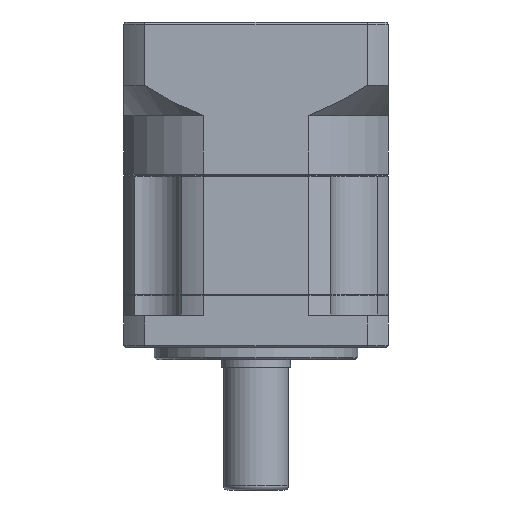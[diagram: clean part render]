
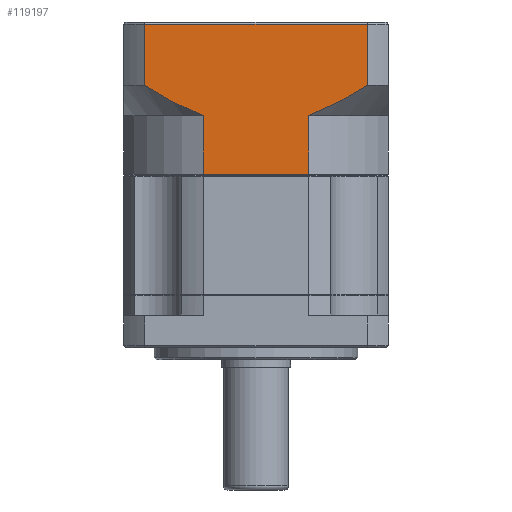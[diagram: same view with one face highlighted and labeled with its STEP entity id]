
A CAD part, front view. The second image highlights one B-rep face of the part: STEP entity #119197.
In plain terms, the highlighted planar face has unit normal (0, -1, 0).
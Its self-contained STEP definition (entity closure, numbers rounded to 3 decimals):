
#128 = CARTESIAN_POINT ( 'NONE',  ( -48.82, -34.19, 153.15 ) ) ;
#1723 = LINE ( 'NONE', #68575, #114935 ) ;
#2540 = CARTESIAN_POINT ( 'NONE',  ( -36.966, -34.19, 131.666 ) ) ;
#4884 = LINE ( 'NONE', #87857, #45288 ) ;
#6492 = DIRECTION ( 'NONE',  ( 0., 0., -1. ) ) ;
#8503 = CARTESIAN_POINT ( 'NONE',  ( -8.443, -34.19, 130.65 ) ) ;
#9054 = CARTESIAN_POINT ( 'NONE',  ( -5.904, -34.19, 131.592 ) ) ;
#9624 = PLANE ( 'NONE',  #109253 ) ;
#10830 = DIRECTION ( 'NONE',  ( -1., 0., 0. ) ) ;
#12624 = CARTESIAN_POINT ( 'NONE',  ( -44.236, -34.19, 135.3 ) ) ;
#16153 = VECTOR ( 'NONE', #77544, 1000. ) ;
#20485 = DIRECTION ( 'NONE',  ( 0., 1., 0. ) ) ;
#21413 = CARTESIAN_POINT ( 'NONE',  ( -46.551, -34.19, 136.688 ) ) ;
#22146 = CARTESIAN_POINT ( 'NONE',  ( -34.424, -34.19, 130.65 ) ) ;
#26308 = EDGE_CURVE ( 'NONE', #105064, #58314, #98002, .T. ) ;
#29450 = CARTESIAN_POINT ( 'NONE',  ( 4.814, -34.19, 137.416 ) ) ;
#30301 = ORIENTED_EDGE ( 'NONE', *, *, #96862, .F. ) ;
#31378 = CARTESIAN_POINT ( 'NONE',  ( -34.424, -34.19, 130.65 ) ) ;
#36713 = VECTOR ( 'NONE', #66775, 1000. ) ;
#37102 = LINE ( 'NONE', #115719, #16153 ) ;
#38418 = VERTEX_POINT ( 'NONE', #8503 ) ;
#40151 = CARTESIAN_POINT ( 'NONE',  ( -34.424, -34.19, 116.239 ) ) ;
#41006 = CARTESIAN_POINT ( 'NONE',  ( -37.59, -34.19, 131.94 ) ) ;
#41508 = VERTEX_POINT ( 'NONE', #122533 ) ;
#41700 = VERTEX_POINT ( 'NONE', #22146 ) ;
#41742 = LINE ( 'NONE', #71984, #73036 ) ;
#45288 = VECTOR ( 'NONE', #116429, 1000. ) ;
#46684 = ORIENTED_EDGE ( 'NONE', *, *, #94661, .T. ) ;
#47220 = CARTESIAN_POINT ( 'NONE',  ( -8.443, -34.19, 116.239 ) ) ;
#47349 = VECTOR ( 'NONE', #104988, 1000. ) ;
#47451 = CARTESIAN_POINT ( 'NONE',  ( -8.443, -34.19, 130.65 ) ) ;
#48309 = CARTESIAN_POINT ( 'NONE',  ( -3.453, -34.19, 132.737 ) ) ;
#49798 = CARTESIAN_POINT ( 'NONE',  ( -35.067, -34.19, 130.889 ) ) ;
#50598 = CARTESIAN_POINT ( 'NONE',  ( -35.705, -34.19, 131.141 ) ) ;
#53595 = ORIENTED_EDGE ( 'NONE', *, *, #102379, .F. ) ;
#54335 = ORIENTED_EDGE ( 'NONE', *, *, #74656, .F. ) ;
#55786 = ORIENTED_EDGE ( 'NONE', *, *, #94181, .T. ) ;
#56563 = FACE_OUTER_BOUND ( 'NONE', #102834, .T. ) ;
#56800 = CARTESIAN_POINT ( 'NONE',  ( 5.953, -34.19, 153.15 ) ) ;
#58314 = VERTEX_POINT ( 'NONE', #128 ) ;
#65228 = VERTEX_POINT ( 'NONE', #47220 ) ;
#65251 = VERTEX_POINT ( 'NONE', #56800 ) ;
#66775 = DIRECTION ( 'NONE',  ( 0., 0., -1. ) ) ;
#68575 = CARTESIAN_POINT ( 'NONE',  ( 11.066, -34.19, 116.239 ) ) ;
#69760 = CARTESIAN_POINT ( 'NONE',  ( -40.655, -34.19, 133.395 ) ) ;
#71984 = CARTESIAN_POINT ( 'NONE',  ( 5.953, -34.19, 135.65 ) ) ;
#73036 = VECTOR ( 'NONE', #6492, 1000. ) ;
#74656 = EDGE_CURVE ( 'NONE', #91755, #41700, #37102, .T. ) ;
#75769 = CARTESIAN_POINT ( 'NONE',  ( 0.141, -34.19, 134.646 ) ) ;
#76339 = CARTESIAN_POINT ( 'NONE',  ( 11.066, -34.19, 153.65 ) ) ;
#76828 = ORIENTED_EDGE ( 'NONE', *, *, #79038, .F. ) ;
#77544 = DIRECTION ( 'NONE',  ( 0., 0., 1. ) ) ;
#79038 = EDGE_CURVE ( 'NONE', #41700, #105064, #88408, .T. ) ;
#79343 = CARTESIAN_POINT ( 'NONE',  ( -48.82, -34.19, 138.15 ) ) ;
#79364 = DIRECTION ( 'NONE',  ( 1., 0., 0. ) ) ;
#87857 = CARTESIAN_POINT ( 'NONE',  ( -48.82, -34.19, 153.15 ) ) ;
#88408 = B_SPLINE_CURVE_WITH_KNOTS ( 'NONE', 3,
 ( #31378, #49798, #50598, #2540, #41006, #117085, #69760, #12624, #21413, #79343 ),
 .UNSPECIFIED., .F., .F.,
 ( 4, 2, 2, 2, 4 ),
 ( 0.101, 0.104, 0.106, 0.11, 0.118 ),
 .UNSPECIFIED. ) ;
#91755 = VERTEX_POINT ( 'NONE', #40151 ) ;
#94181 = EDGE_CURVE ( 'NONE', #65251, #58314, #4884, .T. ) ;
#94502 = B_SPLINE_CURVE_WITH_KNOTS ( 'NONE', 3,
 ( #114777, #29450, #123590, #123168, #75769, #48309, #9054, #47451 ),
 .UNSPECIFIED., .F., .F.,
 ( 4, 2, 2, 4 ),
 ( 0.059, 0.063, 0.067, 0.075 ),
 .UNSPECIFIED. ) ;
#94661 = EDGE_CURVE ( 'NONE', #91755, #65228, #1723, .T. ) ;
#95478 = CARTESIAN_POINT ( 'NONE',  ( -48.82, -34.19, 135.65 ) ) ;
#96862 = EDGE_CURVE ( 'NONE', #38418, #65228, #112605, .T. ) ;
#98002 = LINE ( 'NONE', #95478, #47349 ) ;
#102379 = EDGE_CURVE ( 'NONE', #65251, #41508, #41742, .T. ) ;
#102834 = EDGE_LOOP ( 'NONE', ( #53595, #55786, #103090, #76828, #54335, #46684, #30301, #117320 ) ) ;
#103090 = ORIENTED_EDGE ( 'NONE', *, *, #26308, .F. ) ;
#104988 = DIRECTION ( 'NONE',  ( 0., 0., 1. ) ) ;
#105064 = VERTEX_POINT ( 'NONE', #113724 ) ;
#105365 = CARTESIAN_POINT ( 'NONE',  ( -8.443, -34.19, 130.65 ) ) ;
#109253 = AXIS2_PLACEMENT_3D ( 'NONE', #76339, #20485, #10830 ) ;
#112605 = LINE ( 'NONE', #105365, #36713 ) ;
#113724 = CARTESIAN_POINT ( 'NONE',  ( -48.82, -34.19, 138.15 ) ) ;
#114490 = EDGE_CURVE ( 'NONE', #41508, #38418, #94502, .T. ) ;
#114777 = CARTESIAN_POINT ( 'NONE',  ( 5.953, -34.19, 138.15 ) ) ;
#114935 = VECTOR ( 'NONE', #79364, 1000. ) ;
#115719 = CARTESIAN_POINT ( 'NONE',  ( -34.424, -34.19, 130.65 ) ) ;
#116429 = DIRECTION ( 'NONE',  ( -1., 0., 0. ) ) ;
#117085 = CARTESIAN_POINT ( 'NONE',  ( -39.443, -34.19, 132.79 ) ) ;
#117320 = ORIENTED_EDGE ( 'NONE', *, *, #114490, .F. ) ;
#119197 = ADVANCED_FACE ( 'NONE', ( #56563 ), #9624, .F. ) ;
#122533 = CARTESIAN_POINT ( 'NONE',  ( 5.953, -34.19, 138.15 ) ) ;
#123168 = CARTESIAN_POINT ( 'NONE',  ( 1.327, -34.19, 135.316 ) ) ;
#123590 = CARTESIAN_POINT ( 'NONE',  ( 3.663, -34.19, 136.701 ) ) ;
